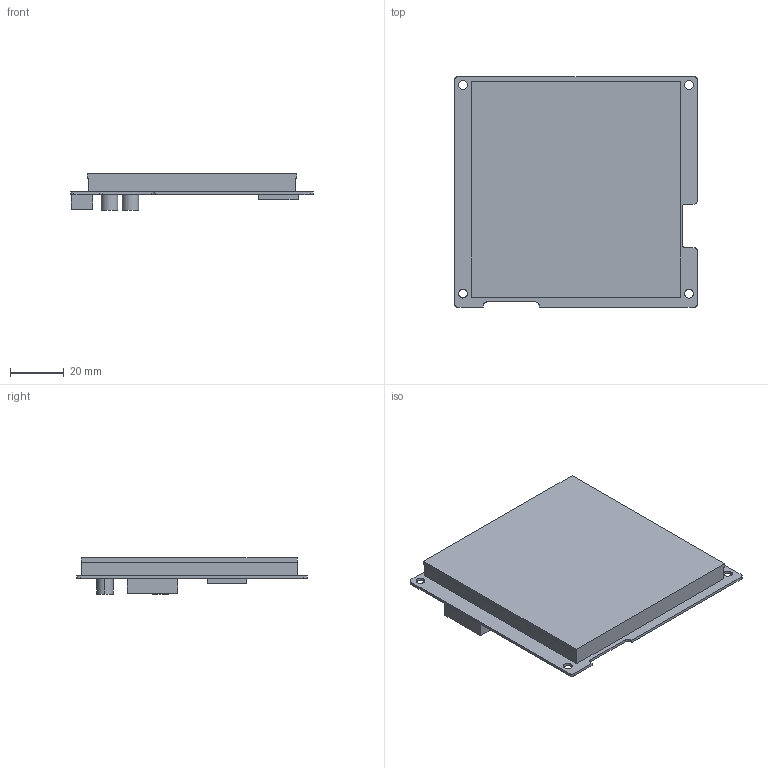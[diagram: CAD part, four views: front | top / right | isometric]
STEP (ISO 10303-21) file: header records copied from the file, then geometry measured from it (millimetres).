
FILE_DESCRIPTION((''),'2;1');
FILE_NAME('3D-DMG48480T040-01WTC-220316','2022-04-19T',('Administrator'),(''),'PRO/ENGINEER BY PARAMETRIC TECHNOLOGY CORPORATION, 2008380','PRO/ENGINEER BY PARAMETRIC TECHNOLOGY CORPORATION, 2008380','');
FILE_SCHEMA(('CONFIG_CONTROL_DESIGN'));
Length unit declared in the file: millimetre
Products named in the file (1): 3D-DMG48480T040-01WTC-220316
Bounding box: 90.6 x 86.05 x 13.53 mm (x, y, z)
Volume: 49182.7 mm3; surface area: 29028.1 mm2
Topology: 1 solids, 2 shells, 66 faces, 10725 edges, 17263 vertices
Faces by surface type: plane 44, cylinder 22
Entity records: 58845 total; most frequent: DIRECTION 14888, CARTESIAN_POINT 10906, TRIMMED_CURVE 10553, VECTOR 6696, LINE 6696, AXIS2_PLACEMENT_3D 4096, CIRCLE 4029, ORIENTED_EDGE 344
